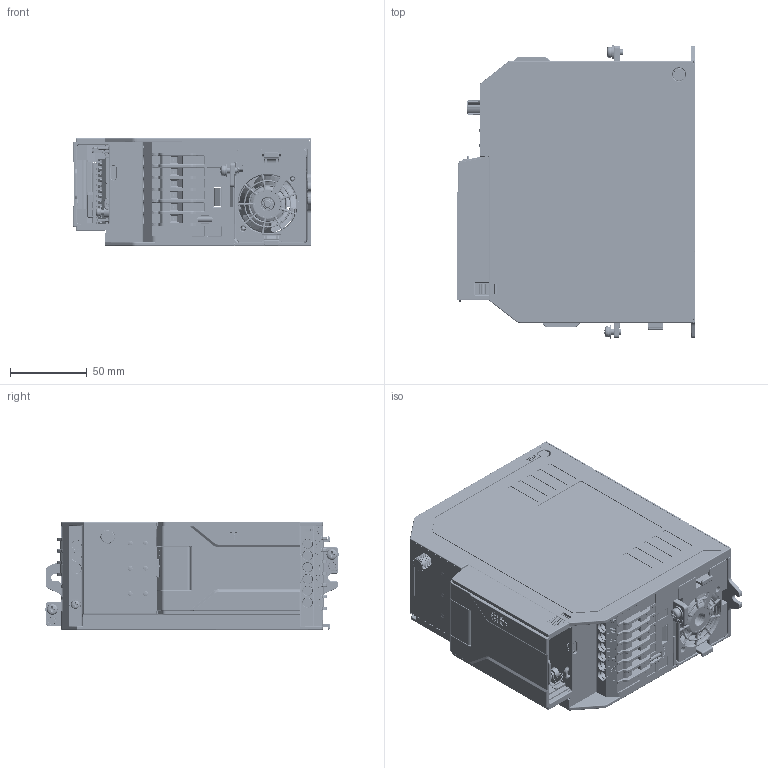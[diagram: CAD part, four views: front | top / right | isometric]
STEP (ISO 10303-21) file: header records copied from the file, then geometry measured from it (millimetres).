
FILE_DESCRIPTION((''),'2;1');
FILE_NAME('GD28-2R2G-2_ASM_1_ASM','2025-09-11T13:46:41',('Administrator'),(''),'CREO PARAMETRIC BY PTC INC, 2019080','CREO PARAMETRIC BY PTC INC, 2019080','');
FILE_SCHEMA(('CONFIG_CONTROL_DESIGN'));
Products named in the file (3): GD28-2R2G-2_ASM_1_ASM; 40810244
Assembly tree (2 placements, depth 2):
  GD28-2R2G-2_ASM_1_ASM
    GD28-2R2G-2_ASM_1_ASM
    40810244
Bounding box: 155.1 x 190.6 x 70.01 mm (x, y, z)
Volume: 33931.5 mm3; surface area: 351660.2 mm2
Topology: 38 solids, 63 shells, 16068 faces, 43607 edges, 27721 vertices
Faces by surface type: plane 8773, cylinder 3724, extrusion 1350, torus 847, bspline 807, cone 403, sphere 164
Entity records: 572931 total; most frequent: CARTESIAN_POINT 181473, ORIENTED_EDGE 86369, DIRECTION 72491, EDGE_CURVE 43399, VECTOR 29525, LINE 28175, VERTEX_POINT 27724, AXIS2_PLACEMENT_3D 21483
